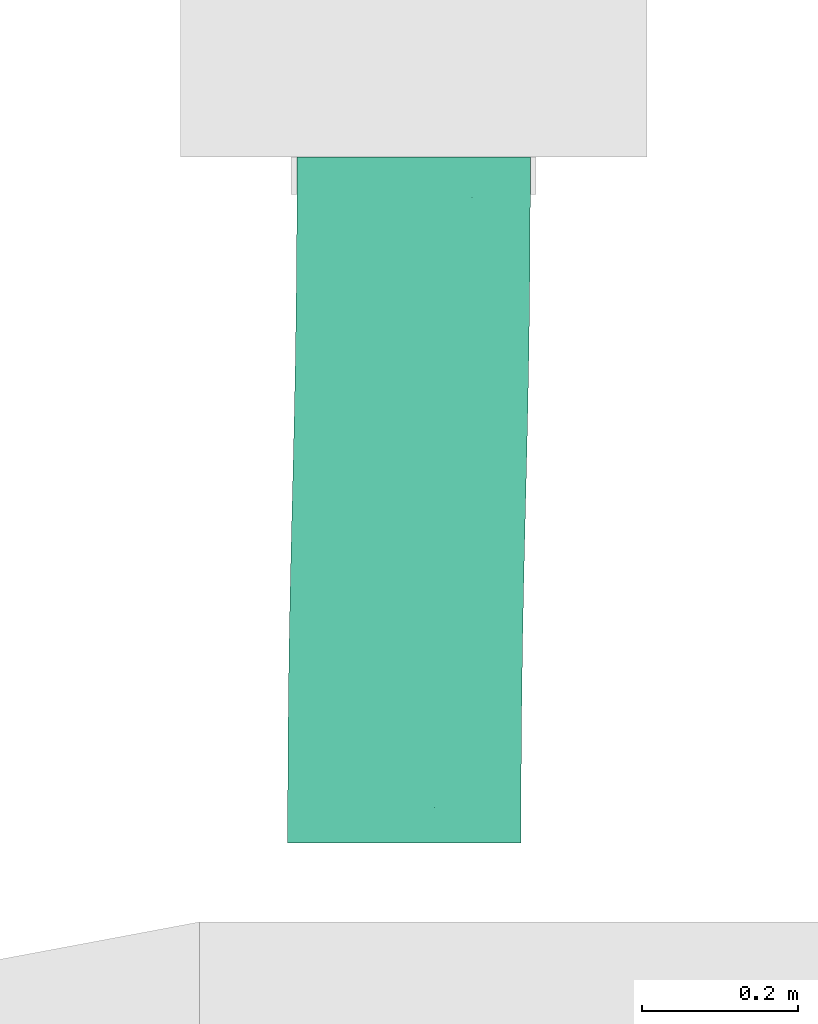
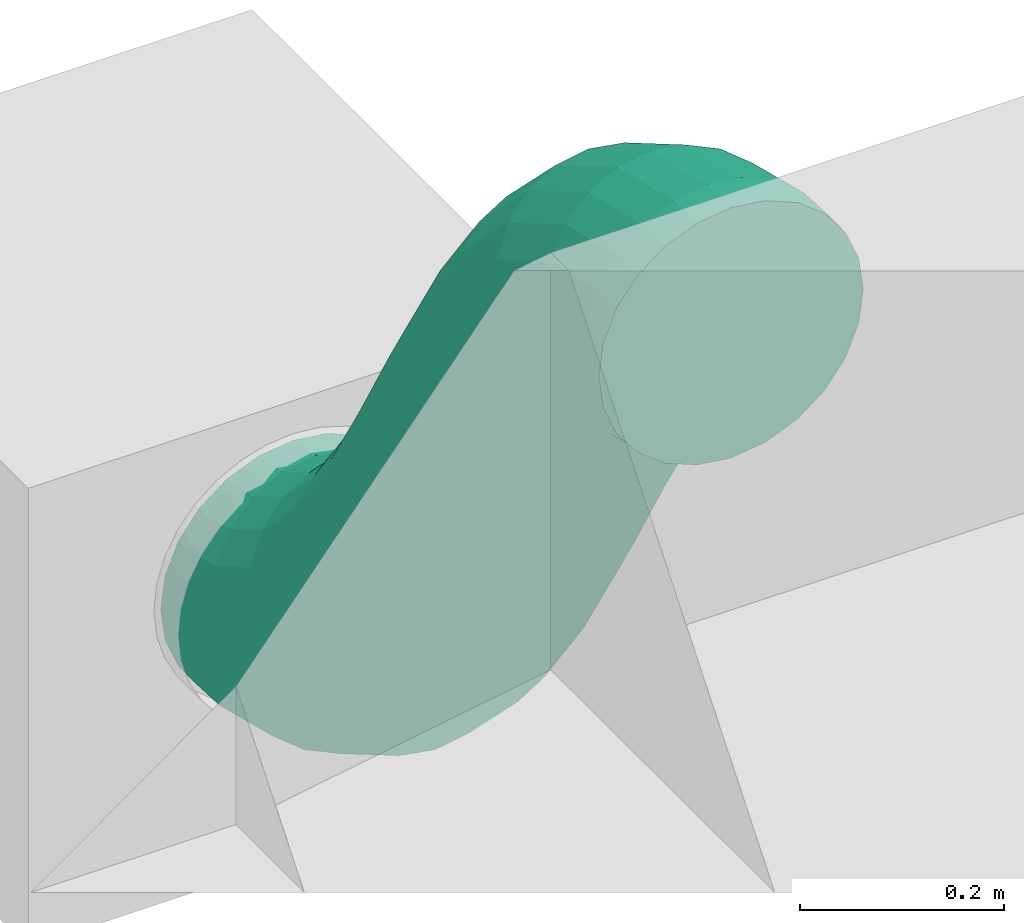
# One storey, part 46 of 60: 1 flow segment.
"""IFC2X3 building model written with IfcOpenShell, lengths in millimetres."""

from ifc_helpers import new_model, entity, si_unit, converted_unit, derived_unit, direction, frame, origin, place, context, subcontext, project, spatial, faceted_brep, type_object, element, save


model = new_model("IFC2X3")

# Units and contexts
model_context = context("Model", 3, precision=0.01, world=origin(), true_north=direction((6.123233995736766e-17, 1.0)))
body_context = subcontext(model_context, "Body", "Model", "MODEL_VIEW")
ifc_project = project(units=[si_unit("LENGTHUNIT", "METRE", prefix="MILLI"), converted_unit("PLANEANGLEUNIT", "DEGREE", entity("IfcPlaneAngleMeasure", 0.017453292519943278), si_unit("PLANEANGLEUNIT", "RADIAN"), dimensions=[0, 0, 0, 0, 0, 0, 0]), si_unit("AREAUNIT", "SQUARE_METRE"), derived_unit("THERMALTRANSMITTANCEUNIT", [(si_unit("MASSUNIT", "GRAM", prefix="KILO"), 1), (si_unit("THERMODYNAMICTEMPERATUREUNIT", "KELVIN"), -1), (si_unit("TIMEUNIT", "SECOND"), -3)])], contexts=[model_context])

# Site, building, storey
site_placement = place(None, origin())
site = spatial("IfcSite", under=ifc_project, at=site_placement, Name="Default", CompositionType="ELEMENT")
building_placement = place(site_placement, origin())
building = spatial("IfcBuilding", under=site, at=building_placement, Name="Praça Pedro II, 1301 - Centro (Sul), Teresina - PI, 64001-100", CompositionType="ELEMENT")
storey_placement = place(building_placement, frame((0.0, 0.0, 6040.0)))
storey = spatial("IfcBuildingStorey", under=building, at=storey_placement, Name="2PAV", CompositionType="ELEMENT", Elevation=6040.0)

# Flow segment
duct_segment_type = type_object("IfcDuctSegmentType", Name="Duto flexível redondo:Flexível - Redondo", PredefinedType="FLEXIBLESEGMENT")
flow_segment_placement = place(storey_placement, frame((26349.07167275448, -64193.30803541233, 2510.904727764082)))
element("IfcFlowSegment", 1, at=flow_segment_placement, inside=storey, type_object=duct_segment_type, Name="Duto flexível redondo:Flexível - Redondo", ObjectType="Duto flexível redondo:Flexível - Redondo", context=body_context, shape_type="Brep", body=[
    faceted_brep([(57.52001102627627, 881.3910904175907, 257.66128941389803), (88.58602820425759, 881.3910904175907, 281.4990828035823), (124.76317143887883, 881.3910904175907, 296.48414617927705), (163.58602820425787, 881.3910904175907, 301.595272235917), (202.4088849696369, 881.3910904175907, 296.48414617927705), (238.58602820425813, 881.3910904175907, 281.4990828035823), (269.65204538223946, 881.3910904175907, 257.66128941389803), (293.4898387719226, 881.3910904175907, 226.59527223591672), (308.4749021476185, 881.3910904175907, 190.4181290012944), (313.5860282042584, 881.3910904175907, 151.59527223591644), (308.4749021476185, 881.3910904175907, 112.7724154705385), (293.4898387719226, 881.3910904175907, 76.59527223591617), (269.65204538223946, 881.3910904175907, 45.52925505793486), (238.58602820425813, 881.3910904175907, 21.691461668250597), (202.4088849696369, 881.3910904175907, 6.706398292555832), (163.58602820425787, 881.3910904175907, 1.5952722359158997), (124.76317143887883, 881.3910904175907, 6.706398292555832), (88.58602820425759, 881.3910904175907, 21.691461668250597), (57.52001102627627, 881.3910904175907, 45.529255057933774), (33.68221763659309, 881.3910904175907, 76.59527223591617), (18.697154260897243, 881.3910904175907, 112.77241547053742), (13.586028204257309, 881.3910904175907, 151.59527223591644), (18.697154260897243, 881.3910904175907, 190.4181290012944), (33.68221763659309, 881.3910904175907, 226.59527223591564), (308.4749021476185, 848.6524060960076, 112.77241547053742), (293.4898387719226, 844.1153386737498, 76.59527223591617), (269.65204538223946, 840.2395728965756, 45.529255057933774), (313.5860282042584, 853.5415815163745, 151.59527223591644), (238.58602820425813, 837.2892357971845, 21.691461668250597), (202.4088849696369, 835.4653879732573, 6.706398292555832), (163.58602820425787, 834.8923216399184, 1.5952722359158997), (124.76317143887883, 835.6090903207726, 6.706398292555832), (88.58602820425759, 837.5668474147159, 21.691461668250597), (57.52001102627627, 840.6321750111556, 45.529255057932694), (33.68221763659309, 844.5961761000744, 76.59527223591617), (18.697154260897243, 849.1887105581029, 112.7724154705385), (13.586028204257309, 854.0968047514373, 151.59527223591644), (18.697154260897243, 858.9859801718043, 190.41812900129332), (33.68221763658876, 863.5230475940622, 226.5952722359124), (57.52001102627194, 867.3988133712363, 257.6612894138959), (124.76317143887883, 872.1729982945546, 296.48414617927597), (163.58602820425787, 872.7460646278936, 301.595272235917), (88.58602820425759, 870.3491504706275, 281.49908280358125), (238.58602820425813, 870.0715388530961, 281.4990828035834), (269.65204538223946, 867.0062112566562, 257.6612894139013), (202.4088849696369, 872.0292959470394, 296.48414617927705), (308.4749021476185, 858.4496757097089, 190.4181290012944), (293.4898387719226, 863.0422101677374, 226.59527223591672), (112.77241547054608, 0.0, 1113.9841461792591), (76.59527223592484, 0.0, 1098.9990828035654), (45.52925505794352, 0.0, 1075.1612894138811), (21.69146166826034, 0.0, 1044.0952722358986), (6.706398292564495, 0.0, 1007.9181290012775), (1.5952722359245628, 0.0, 969.0952722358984), (6.706398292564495, 0.0, 930.2724154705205), (21.69146166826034, 0.0, 894.0952722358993), (45.52925505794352, 0.0, 863.0292550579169), (76.59527223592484, 0.0, 839.1914616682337), (112.77241547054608, 0.0, 824.2063982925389), (151.5952722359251, 0.0, 819.095272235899), (190.41812900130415, 0.0, 824.2063982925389), (226.5952722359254, 0.0, 839.1914616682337), (257.66128941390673, 0.0, 863.0292550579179), (281.4990828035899, 0.0, 894.0952722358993), (296.48414617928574, 0.0, 930.2724154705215), (301.5952722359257, 0.0, 969.0952722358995), (296.48414617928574, 0.0, 1007.9181290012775), (281.4990828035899, 0.0, 1044.0952722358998), (257.66128941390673, 0.0, 1075.1612894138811), (226.5952722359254, 0.0, 1098.9990828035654), (190.41812900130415, 0.0, 1113.98414617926), (151.5952722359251, 0.0, 1119.0952722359), (313.30461153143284, 778.7243169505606, 170.78156296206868), (308.1557462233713, 763.8018072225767, 134.53167475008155), (293.13566149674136, 749.9539848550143, 100.74220035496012), (269.26795130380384, 738.1245560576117, 71.71583661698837), (238.17916065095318, 729.1196768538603, 49.430682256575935), (201.98793924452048, 723.5530148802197, 35.4054337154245), (163.1606590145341, 721.803928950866, 30.595888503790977), (124.34333494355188, 723.9916163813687, 35.329809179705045), (88.1813035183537, 729.9669898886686, 49.28458687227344), (57.138947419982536, 739.3228376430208, 71.50922654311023), (33.33175191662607, 751.4215740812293, 100.48915572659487), (18.382138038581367, 765.4386903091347, 134.24944014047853), (13.308897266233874, 780.4189430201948, 170.48937219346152), (18.45776257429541, 795.3414527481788, 206.7392604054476), (33.47784730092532, 809.1892751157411, 240.528734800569), (57.34555749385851, 821.0187039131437, 269.55509853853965), (88.43434814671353, 830.0235831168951, 291.8402528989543), (124.62556955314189, 835.5902450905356, 305.86550144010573), (163.4528497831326, 837.3393310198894, 310.67504665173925), (202.27017385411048, 835.1516435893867, 305.94112597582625), (238.432205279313, 829.1762700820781, 291.98634828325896), (269.47456137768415, 819.8204223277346, 269.7617086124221), (308.23137075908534, 793.7045696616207, 207.02149501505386), (293.2817568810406, 807.721685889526, 240.78177942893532), (312.5345009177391, 689.4150450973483, 223.28579441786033), (307.3088517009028, 665.587950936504, 192.27084265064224), (292.21751287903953, 643.4768333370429, 163.3392957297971), (268.28893425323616, 624.5885284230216, 138.46279076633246), (237.15380891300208, 610.2102429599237, 119.33662046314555), (200.93394419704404, 601.3218333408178, 107.26420171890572), (162.09766402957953, 598.5290299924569, 103.0682499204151), (123.29159672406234, 602.0221578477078, 107.03471224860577), (87.16031163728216, 611.5631660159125, 118.89328085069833), (56.166096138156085, 626.5018505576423, 137.83581387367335), (32.421154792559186, 645.8201648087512, 162.57140899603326), (17.543666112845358, 668.2015975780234, 191.41437628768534), (12.547506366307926, 692.1208912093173, 222.39911519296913), (17.773155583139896, 715.9479853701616, 253.41406696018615), (32.864494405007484, 738.0591029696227, 282.3456138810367), (56.793073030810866, 756.9474078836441, 307.22211884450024), (87.92819837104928, 771.3256933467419, 326.34828914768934), (124.148063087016, 780.2141029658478, 338.42070789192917), (162.9843432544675, 783.0069063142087, 342.61665969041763), (201.79041055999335, 779.5137784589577, 338.6501973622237), (237.9216956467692, 769.9727702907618, 326.7916287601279), (268.9159111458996, 755.0340857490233, 307.8490957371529), (307.5383411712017, 713.3343387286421, 254.27053332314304), (292.66085249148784, 735.715771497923, 283.113500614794), (311.38579904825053, 610.4198091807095, 301.6014386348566), (306.0794862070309, 581.0455472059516, 276.0859326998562), (290.91329298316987, 553.7867570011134, 252.2577732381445), (266.9207703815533, 530.5010800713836, 231.74080993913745), (235.73696916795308, 512.7753968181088, 215.93323994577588), (199.4870138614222, 501.817683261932, 205.9123230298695), (160.64127901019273, 498.3746894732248, 202.36096811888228), (121.8470372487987, 502.68104978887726, 205.52119418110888), (85.74805204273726, 514.443292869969, 215.17763703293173), (54.80440957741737, 532.8598412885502, 230.6722260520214), (31.12486795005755, 556.6756377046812, 250.94903060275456), (16.323148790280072, 584.2676749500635, 274.62621996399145), (11.407964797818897, 613.75560128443, 300.09023280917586), (16.714277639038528, 643.1298632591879, 325.6057387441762), (31.880470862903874, 670.3886534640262, 349.43389820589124), (55.87299346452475, 693.6743303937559, 369.95086150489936), (87.05679467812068, 711.4000136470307, 385.7584314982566), (123.3067499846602, 722.3577272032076, 395.7793484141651), (162.15248483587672, 725.8007209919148, 399.3307033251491), (200.9467265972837, 721.4943606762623, 396.1704772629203), (237.04571180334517, 709.7321175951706, 386.51403441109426), (267.98935426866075, 691.3155691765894, 371.01944539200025), (306.4706150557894, 639.9077355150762, 327.06545148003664), (291.66889589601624, 667.4997727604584, 350.7426408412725), (309.9684064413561, 538.8186984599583, 398.23575086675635), (304.6091547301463, 506.7701725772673, 376.3294857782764), (289.3938351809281, 477.0297132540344, 355.8506373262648), (265.3593466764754, 451.6240836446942, 338.19480518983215), (234.14359988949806, 432.28463542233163, 324.5652051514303), (197.87389637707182, 420.3293200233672, 315.89067192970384), (159.02195649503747, 416.57287243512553, 312.7623606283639), (120.2354757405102, 421.27128835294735, 315.39346049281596), (84.15768867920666, 434.1043784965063, 323.6046664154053), (53.247236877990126, 454.1975889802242, 336.83639828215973), (29.61061654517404, 480.1816007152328, 354.18693543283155), (14.858624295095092, 510.28564624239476, 374.47386743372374), (9.99658402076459, 542.4581846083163, 396.3146733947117), (15.355835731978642, 574.5067104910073, 418.2209384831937), (30.57115528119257, 604.2471698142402, 438.69978693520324), (54.605643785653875, 629.652799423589, 456.35561907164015), (85.82139057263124, 648.9922476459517, 469.985219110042), (122.09109408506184, 660.9475630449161, 478.65975233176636), (160.94303396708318, 664.7040106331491, 481.7880636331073), (199.72951472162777, 660.005594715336, 479.15696376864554), (235.80730178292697, 647.1725045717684, 470.9457578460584), (266.7177535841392, 627.0792940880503, 457.7140259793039), (305.1063661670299, 570.9912368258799, 420.07655682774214), (290.3543739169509, 601.0952823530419, 440.3634888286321), (308.3904349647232, 471.64734056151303, 505.81793213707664), (303.00607266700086, 438.52990296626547, 485.6236445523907), (287.7674509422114, 407.79751267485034, 466.7334806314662), (263.713056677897, 381.5445312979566, 450.43477382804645), (232.48215709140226, 361.5600561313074, 437.8382540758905), (196.20308637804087, 349.2059961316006, 429.8023533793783), (157.34820325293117, 345.32426007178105, 426.8747050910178), (118.56540379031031, 350.179381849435, 429.254823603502), (82.49767168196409, 363.4404929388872, 436.7805077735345), (51.602963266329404, 384.20387053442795, 448.9388946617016), (27.986701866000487, 411.0545247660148, 464.90141029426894), (13.258296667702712, 442.16262792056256, 483.5802356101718), (8.421464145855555, 475.4082141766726, 503.7024395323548), (13.805826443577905, 508.5256517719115, 523.8967271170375), (29.044448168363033, 539.2580420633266, 542.7868910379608), (53.09884243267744, 565.5110234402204, 559.0855978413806), (84.32974201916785, 585.4954986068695, 571.6821175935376), (120.60881273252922, 597.8495586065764, 579.7180182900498), (159.4636958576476, 601.7312946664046, 582.6456665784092), (198.24649532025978, 596.876172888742, 580.2655480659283), (234.31422742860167, 583.6150617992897, 572.739863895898), (265.20893584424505, 562.8516842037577, 560.5814770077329), (303.5536024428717, 504.8929268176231, 525.9401360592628), (288.82519724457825, 536.0010299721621, 544.6189613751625), (301.37547399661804, 372.8654386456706, 596.7938173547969), (286.13685227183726, 342.1330483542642, 577.9036534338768), (306.7598362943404, 405.9828762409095, 616.9881049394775), (262.08245800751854, 315.88006697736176, 561.6049466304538), (230.85155842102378, 295.8955918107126, 549.0084268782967), (194.57248770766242, 283.54153181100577, 540.9725261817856), (155.71760458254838, 279.6597957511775, 538.0448778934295), (116.93480511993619, 284.5149175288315, 540.4249964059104), (80.86707301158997, 297.77602861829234, 547.9506805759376), (49.97236459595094, 318.53940621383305, 560.1090674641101), (11.627697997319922, 376.49816359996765, 594.7504084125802), (6.790865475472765, 409.7437498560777, 614.8726123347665), (26.35610319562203, 345.3900604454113, 576.0715830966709), (12.175227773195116, 442.8611874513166, 635.0668999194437), (27.413849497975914, 473.5935777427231, 653.9570638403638), (51.468243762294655, 499.84655911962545, 670.255770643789), (82.69914334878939, 519.8310342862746, 682.8522903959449), (118.97821406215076, 532.1850942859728, 690.8881910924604), (157.8330971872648, 536.0668303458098, 693.8158393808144), (196.6158966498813, 531.2117085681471, 691.4357208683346), (232.68362875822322, 517.9505974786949, 683.9100366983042), (263.5783371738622, 497.18721988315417, 671.751649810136), (287.19459857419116, 470.3365656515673, 655.7891341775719), (301.92300377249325, 439.22846249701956, 637.1103088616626), (299.82546470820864, 306.88437992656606, 702.469605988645), (284.6101451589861, 277.1439206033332, 681.9907575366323), (305.1847164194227, 338.9329058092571, 724.3758710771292), (260.5756566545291, 251.73829099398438, 664.3349254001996), (229.3599098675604, 232.3988427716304, 650.705325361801), (193.0902063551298, 220.443527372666, 642.0307921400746), (154.23826647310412, 216.68707978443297, 638.9024808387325), (115.45178571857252, 221.38549570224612, 641.5335807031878), (79.37399865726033, 234.21858584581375, 649.744786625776), (48.46354685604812, 254.31179632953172, 662.9765184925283), (10.07493427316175, 310.39985359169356, 700.613987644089), (5.212893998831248, 342.5723919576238, 722.4547936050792), (24.826926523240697, 280.29580806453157, 680.3270556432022), (10.572145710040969, 374.62091784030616, 744.3610586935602), (25.78746525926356, 404.36137716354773, 764.8399071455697), (49.821953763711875, 429.76700677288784, 782.4957392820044), (81.03770055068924, 449.1064549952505, 796.1253393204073), (117.30740406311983, 461.0617703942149, 804.799872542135), (156.15934394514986, 464.8182179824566, 807.9281838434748), (194.94582469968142, 460.11980206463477, 805.2970839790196), (231.02361176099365, 447.28671192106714, 797.0858780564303), (261.93406356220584, 427.1935014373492, 783.8541461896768), (285.5706838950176, 401.20948970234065, 766.5036090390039), (300.3226761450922, 371.10544417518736, 746.216677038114), (298.4670228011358, 238.2612271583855, 795.0848057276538), (283.30082957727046, 211.00243695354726, 771.2566462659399), (303.7733356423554, 267.63548913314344, 820.6003116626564), (259.3083069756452, 187.7167600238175, 750.7396829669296), (228.12450576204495, 169.99107677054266, 734.9321129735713), (191.87455045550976, 159.03336321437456, 724.9111960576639), (153.0288156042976, 155.59036942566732, 721.3598411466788), (114.23457384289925, 159.8967297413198, 724.5200672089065), (78.13558863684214, 171.65897282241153, 734.176510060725), (47.19194617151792, 190.0755212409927, 749.671099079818), (8.710685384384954, 241.48335490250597, 793.6250929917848), (3.7955013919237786, 270.9712812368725, 819.0891058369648), (23.51240454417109, 213.89131765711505, 769.9479036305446), (9.101814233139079, 300.3455432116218, 844.604611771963), (24.268007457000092, 327.60433341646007, 868.4327712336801), (48.2605300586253, 350.8900103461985, 888.9497345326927), (79.44433127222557, 368.61569359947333, 904.7573045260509), (115.69428657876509, 379.57340715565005, 914.7782214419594), (154.54002142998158, 383.0164009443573, 918.3295763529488), (193.3342631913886, 378.7100406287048, 915.1693502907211), (229.4332483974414, 366.9477975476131, 905.5129074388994), (260.3768908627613, 348.5312491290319, 890.0183184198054), (284.0564324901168, 324.7154527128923, 869.7415138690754), (298.85815164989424, 297.12341546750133, 846.0643245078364), (297.4081448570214, 165.44310504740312, 867.2764775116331), (282.31680603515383, 143.33198744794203, 838.3449305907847), (302.6337940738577, 189.2701992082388, 898.2914292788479), (258.3882274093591, 124.44368253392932, 813.4684256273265), (227.2531020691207, 110.06539707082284, 794.3422553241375), (191.033237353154, 101.17698745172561, 782.2698365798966), (152.19695718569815, 98.38418410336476, 778.0738847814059), (113.39088988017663, 101.87731195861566, 782.0403471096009), (77.25960479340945, 111.418320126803, 793.8989157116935), (46.265389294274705, 126.35700466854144, 812.8414487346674), (7.642959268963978, 168.05675168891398, 866.4200111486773), (2.6467995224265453, 191.97604532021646, 897.4047500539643), (22.520447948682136, 145.6753189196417, 837.5770438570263), (7.872448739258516, 215.8031394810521, 928.4197018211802), (22.963787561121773, 237.91425708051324, 957.3512487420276), (46.892366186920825, 256.8025619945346, 982.2277537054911), (78.02749152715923, 271.18084745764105, 1001.3539240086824), (114.24735624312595, 280.06925707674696, 1013.4263427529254), (153.0836364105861, 282.8620604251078, 1017.6222945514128), (191.88970371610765, 279.3689325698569, 1013.6558322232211), (228.02098880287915, 269.82792440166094, 1001.7972636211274), (259.0152043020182, 254.88923985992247, 982.8547305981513), (282.76014564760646, 235.57092560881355, 958.1191354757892), (297.63763432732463, 213.1894928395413, 929.2761681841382), (296.72353786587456, 86.04963766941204, 913.951284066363), (281.703453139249, 72.20181530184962, 880.1618096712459), (301.8724031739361, 100.97214739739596, 950.2011722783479), (257.8357429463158, 60.372386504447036, 851.1354459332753), (226.7469522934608, 51.36750730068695, 828.8502915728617), (190.5557308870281, 45.80084532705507, 814.825043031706), (151.72845065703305, 44.05175939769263, 810.0154978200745), (112.91112658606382, 46.239446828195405, 814.7494184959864), (76.74909516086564, 52.214820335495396, 828.7041961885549), (45.70673906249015, 61.57066808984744, 850.9288358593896), (6.949929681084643, 87.68652075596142, 913.6690494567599), (1.876688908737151, 102.66677346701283, 949.9089815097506), (21.89954355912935, 73.66940452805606, 879.9087650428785), (7.025554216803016, 117.58928319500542, 986.1588697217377), (22.045638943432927, 131.43710556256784, 1019.948344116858), (45.91334913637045, 143.26653435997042, 1048.974707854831), (77.00213978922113, 152.27141356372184, 1071.2598622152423), (113.19336119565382, 157.83807553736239, 1085.2851107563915), (152.0206414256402, 159.58716146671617, 1090.094655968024), (190.83796549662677, 157.39947403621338, 1085.3607352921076), (226.9999969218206, 151.42410052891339, 1071.4059575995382), (258.0423530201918, 142.06825277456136, 1049.1813179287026), (281.8495485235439, 129.96951633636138, 1020.2013887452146), (296.7991624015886, 115.95240010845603, 986.4411043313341), (296.4841461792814, 22.40511024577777, 930.2724154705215), (281.4990828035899, 17.868042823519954, 894.0952722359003), (301.59527223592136, 27.294285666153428, 969.0952722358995), (257.66128941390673, 13.992277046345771, 863.029255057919), (226.5952722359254, 11.041939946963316, 839.1914616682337), (190.41812900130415, 9.218092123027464, 824.2063982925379), (151.5952722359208, 8.645025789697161, 819.0952722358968), (112.77241547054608, 9.36179447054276, 824.2063982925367), (76.59527223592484, 11.319551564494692, 839.1914616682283), (45.52925505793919, 14.384879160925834, 863.0292550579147), (6.706398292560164, 22.94141470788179, 930.2724154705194), (1.5952722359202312, 27.849508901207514, 969.0952722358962), (21.69146166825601, 18.348880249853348, 894.0952722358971), (6.706398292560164, 32.73868432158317, 1007.9181290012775), (21.69146166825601, 37.27575174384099, 1044.095272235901), (45.52925505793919, 41.15151752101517, 1075.1612894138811), (76.5952722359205, 44.101854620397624, 1098.9990828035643), (112.77241547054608, 45.92570244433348, 1113.9841461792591), (151.59527223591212, 46.498768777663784, 1119.095272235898), (190.41812900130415, 45.78200009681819, 1113.9841461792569), (226.59527223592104, 43.824243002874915, 1098.999082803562), (257.66128941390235, 40.75891540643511, 1075.16128941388), (281.49908280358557, 36.7949143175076, 1044.0952722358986), (296.4841461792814, 32.20237985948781, 1007.9181290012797)], [[[0, 1, 2, 3, 4, 5, 6, 7, 8, 9, 10, 11, 12, 13, 14, 15, 16, 17, 18, 19, 20, 21, 22, 23]], [[11, 10, 24, 25]], [[12, 11, 25, 26]], [[9, 27, 24, 10]], [[14, 13, 28, 29]], [[15, 14, 29, 30]], [[12, 26, 28, 13]], [[15, 30, 31, 16]], [[16, 31, 32, 17]], [[17, 32, 33, 18]], [[19, 34, 35, 20]], [[20, 35, 36, 21]], [[18, 33, 34, 19]], [[37, 38, 23, 22]], [[36, 37, 22, 21]], [[23, 38, 39, 0]], [[40, 41, 3, 2]], [[42, 40, 2, 1]], [[0, 39, 42, 1]], [[5, 43, 44, 6]], [[45, 43, 5, 4]], [[3, 41, 45, 4]], [[46, 27, 9, 8]], [[47, 46, 8, 7]], [[44, 47, 7, 6]], [[48, 49, 50, 51, 52, 53, 54, 55, 56, 57, 58, 59, 60, 61, 62, 63, 64, 65, 66, 67, 68, 69, 70, 71]], [[24, 27, 72, 73]], [[25, 24, 73, 74]], [[26, 25, 74, 75]], [[29, 28, 76, 77]], [[30, 29, 77, 78]], [[75, 76, 28, 26]], [[30, 78, 79, 31]], [[31, 79, 80, 32]], [[32, 80, 81, 33]], [[33, 81, 82, 34]], [[34, 82, 83, 35]], [[84, 36, 35, 83]], [[85, 86, 38, 37]], [[84, 85, 37, 36]], [[87, 39, 38, 86]], [[88, 89, 40, 42]], [[88, 42, 39, 87]], [[90, 41, 40, 89]], [[91, 92, 43, 45]], [[90, 91, 45, 41]], [[44, 43, 92, 93]], [[94, 72, 27, 46]], [[95, 94, 46, 47]], [[93, 95, 47, 44]], [[72, 96, 97, 73]], [[73, 97, 98, 74]], [[99, 75, 74, 98]], [[76, 100, 101, 77]], [[77, 101, 102, 78]], [[100, 76, 75, 99]], [[79, 78, 102, 103]], [[80, 79, 103, 104]], [[104, 105, 81, 80]], [[82, 81, 105, 106]], [[83, 82, 106, 107]], [[84, 83, 107, 108]], [[109, 110, 86, 85]], [[108, 109, 85, 84]], [[87, 86, 110, 111]], [[112, 113, 89, 88]], [[111, 112, 88, 87]], [[90, 89, 113, 114]], [[115, 116, 92, 91]], [[114, 115, 91, 90]], [[117, 93, 92, 116]], [[118, 96, 72, 94]], [[119, 118, 94, 95]], [[119, 95, 93, 117]], [[96, 120, 121, 97]], [[97, 121, 122, 98]], [[123, 99, 98, 122]], [[100, 124, 125, 101]], [[101, 125, 126, 102]], [[124, 100, 99, 123]], [[103, 102, 126, 127]], [[104, 103, 127, 128]], [[128, 129, 105, 104]], [[106, 105, 129, 130]], [[107, 106, 130, 131]], [[108, 107, 131, 132]], [[133, 134, 110, 109]], [[132, 133, 109, 108]], [[111, 110, 134, 135]], [[136, 137, 113, 112]], [[135, 136, 112, 111]], [[114, 113, 137, 138]], [[139, 140, 116, 115]], [[138, 139, 115, 114]], [[141, 117, 116, 140]], [[142, 120, 96, 118]], [[143, 142, 118, 119]], [[143, 119, 117, 141]], [[120, 144, 145, 121]], [[121, 145, 146, 122]], [[147, 123, 122, 146]], [[124, 148, 149, 125]], [[125, 149, 150, 126]], [[148, 124, 123, 147]], [[127, 126, 150, 151]], [[128, 127, 151, 152]], [[152, 153, 129, 128]], [[130, 129, 153, 154]], [[131, 130, 154, 155]], [[132, 131, 155, 156]], [[157, 158, 134, 133]], [[156, 157, 133, 132]], [[135, 134, 158, 159]], [[160, 161, 137, 136]], [[159, 160, 136, 135]], [[138, 137, 161, 162]], [[163, 164, 140, 139]], [[162, 163, 139, 138]], [[165, 141, 140, 164]], [[166, 144, 120, 142]], [[167, 166, 142, 143]], [[167, 143, 141, 165]], [[144, 168, 169, 145]], [[145, 169, 170, 146]], [[171, 147, 146, 170]], [[148, 172, 173, 149]], [[149, 173, 174, 150]], [[172, 148, 147, 171]], [[151, 150, 174, 175]], [[152, 151, 175, 176]], [[176, 177, 153, 152]], [[154, 153, 177, 178]], [[155, 154, 178, 179]], [[156, 155, 179, 180]], [[181, 182, 158, 157]], [[180, 181, 157, 156]], [[159, 158, 182, 183]], [[184, 185, 161, 160]], [[183, 184, 160, 159]], [[162, 161, 185, 186]], [[187, 188, 164, 163]], [[186, 187, 163, 162]], [[189, 165, 164, 188]], [[190, 168, 144, 166]], [[191, 190, 166, 167]], [[191, 167, 165, 189]], [[192, 193, 170, 169]], [[194, 192, 169, 168]], [[195, 171, 170, 193]], [[196, 197, 173, 172]], [[196, 172, 171, 195]], [[198, 174, 173, 197]], [[199, 200, 176, 175]], [[198, 199, 175, 174]], [[200, 201, 177, 176]], [[202, 203, 180, 179]], [[204, 202, 179, 178]], [[201, 204, 178, 177]], [[181, 180, 203, 205]], [[182, 181, 205, 206]], [[183, 182, 206, 207]], [[185, 184, 208, 209]], [[186, 185, 209, 210]], [[207, 208, 184, 183]], [[186, 210, 211, 187]], [[187, 211, 212, 188]], [[213, 189, 188, 212]], [[189, 213, 214, 191]], [[191, 214, 215, 190]], [[194, 168, 190, 215]], [[216, 217, 193, 192]], [[218, 216, 192, 194]], [[219, 195, 193, 217]], [[220, 221, 197, 196]], [[220, 196, 195, 219]], [[222, 198, 197, 221]], [[223, 224, 200, 199]], [[222, 223, 199, 198]], [[201, 200, 224, 225]], [[226, 227, 203, 202]], [[228, 226, 202, 204]], [[225, 228, 204, 201]], [[205, 203, 227, 229]], [[206, 205, 229, 230]], [[207, 206, 230, 231]], [[209, 208, 232, 233]], [[210, 209, 233, 234]], [[231, 232, 208, 207]], [[210, 234, 235, 211]], [[211, 235, 236, 212]], [[212, 236, 237, 213]], [[213, 237, 238, 214]], [[214, 238, 239, 215]], [[218, 194, 215, 239]], [[240, 241, 217, 216]], [[242, 240, 216, 218]], [[243, 219, 217, 241]], [[244, 245, 221, 220]], [[244, 220, 219, 243]], [[246, 222, 221, 245]], [[247, 248, 224, 223]], [[246, 247, 223, 222]], [[225, 224, 248, 249]], [[250, 251, 227, 226]], [[252, 250, 226, 228]], [[249, 252, 228, 225]], [[229, 227, 251, 253]], [[230, 229, 253, 254]], [[231, 230, 254, 255]], [[233, 232, 256, 257]], [[234, 233, 257, 258]], [[255, 256, 232, 231]], [[234, 258, 259, 235]], [[235, 259, 260, 236]], [[236, 260, 261, 237]], [[237, 261, 262, 238]], [[238, 262, 263, 239]], [[242, 218, 239, 263]], [[264, 265, 241, 240]], [[266, 264, 240, 242]], [[267, 243, 241, 265]], [[268, 269, 245, 244]], [[268, 244, 243, 267]], [[270, 246, 245, 269]], [[271, 272, 248, 247]], [[270, 271, 247, 246]], [[249, 248, 272, 273]], [[274, 275, 251, 250]], [[276, 274, 250, 252]], [[273, 276, 252, 249]], [[253, 251, 275, 277]], [[254, 253, 277, 278]], [[255, 254, 278, 279]], [[257, 256, 280, 281]], [[258, 257, 281, 282]], [[279, 280, 256, 255]], [[258, 282, 283, 259]], [[259, 283, 284, 260]], [[260, 284, 285, 261]], [[261, 285, 286, 262]], [[262, 286, 287, 263]], [[266, 242, 263, 287]], [[288, 289, 265, 264]], [[290, 288, 264, 266]], [[291, 267, 265, 289]], [[292, 293, 269, 268]], [[292, 268, 267, 291]], [[294, 270, 269, 293]], [[295, 296, 272, 271]], [[294, 295, 271, 270]], [[273, 272, 296, 297]], [[298, 299, 275, 274]], [[300, 298, 274, 276]], [[297, 300, 276, 273]], [[277, 275, 299, 301]], [[278, 277, 301, 302]], [[279, 278, 302, 303]], [[281, 280, 304, 305]], [[282, 281, 305, 306]], [[303, 304, 280, 279]], [[282, 306, 307, 283]], [[283, 307, 308, 284]], [[284, 308, 309, 285]], [[285, 309, 310, 286]], [[286, 310, 311, 287]], [[290, 266, 287, 311]], [[312, 313, 289, 288]], [[314, 312, 288, 290]], [[291, 289, 313, 315]], [[316, 317, 293, 292]], [[315, 316, 292, 291]], [[294, 293, 317, 318]], [[319, 320, 296, 295]], [[318, 319, 295, 294]], [[321, 297, 296, 320]], [[322, 323, 299, 298]], [[324, 322, 298, 300]], [[324, 300, 297, 321]], [[299, 323, 325, 301]], [[301, 325, 326, 302]], [[327, 303, 302, 326]], [[304, 328, 329, 305]], [[305, 329, 330, 306]], [[328, 304, 303, 327]], [[307, 306, 330, 331]], [[308, 307, 331, 332]], [[332, 333, 309, 308]], [[310, 309, 333, 334]], [[311, 310, 334, 335]], [[290, 311, 335, 314]], [[312, 314, 65, 64]], [[313, 312, 64, 63]], [[315, 313, 63, 62]], [[60, 59, 318, 317]], [[61, 60, 317, 316]], [[315, 62, 61, 316]], [[318, 59, 58, 319]], [[319, 58, 57, 320]], [[320, 57, 56, 321]], [[324, 55, 54, 322]], [[322, 54, 53, 323]], [[324, 321, 56, 55]], [[323, 53, 52, 325]], [[325, 52, 51, 326]], [[326, 51, 50, 327]], [[328, 49, 48, 329]], [[329, 48, 71, 330]], [[327, 50, 49, 328]], [[331, 330, 71, 70]], [[332, 331, 70, 69]], [[333, 332, 69, 68]], [[335, 334, 67, 66]], [[314, 335, 66, 65]], [[68, 67, 334, 333]]]),
])

save(model, "model.ifc")
